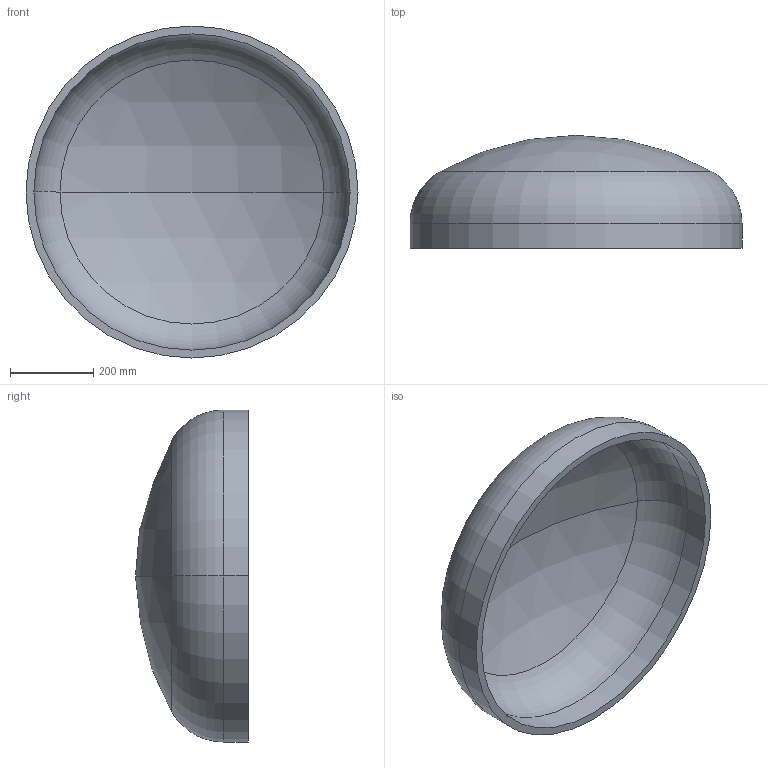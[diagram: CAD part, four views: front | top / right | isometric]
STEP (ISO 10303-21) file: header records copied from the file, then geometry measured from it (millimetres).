
FILE_DESCRIPTION (( 'STEP AP203' ), '1' );
FILE_NAME ('DIN 28013 Korbbogenform_-_Boden DIN 28013 - 800 x 60 - I - s=19.step', '2016-07-01T08:13:38', ( '' ), ( '' ), 'SwSTEP 2.0', 'SolidWorks 2013', '' );
FILE_SCHEMA (( 'CONFIG_CONTROL_DESIGN' ));
Length unit declared in the file: millimetre
Products named in the file (1): DIN 28013 Korbbogenform_-_Boden DIN 28013 - 800 x 60 - I - s=19
Bounding box: 800 x 272.13 x 800 mm (x, y, z)
Volume: 15655600.9 mm3; surface area: 1695331.7 mm2
Topology: 1 solids, 1 shells, 13 faces, 24 edges, 14 vertices
Faces by surface type: torus 4, cylinder 4, sphere 4, plane 1
Entity records: 407 total; most frequent: DIRECTION 72, CARTESIAN_POINT 52, ORIENTED_EDGE 48, AXIS2_PLACEMENT_3D 34, EDGE_CURVE 24, CIRCLE 20, EDGE_LOOP 14, VERTEX_POINT 14
